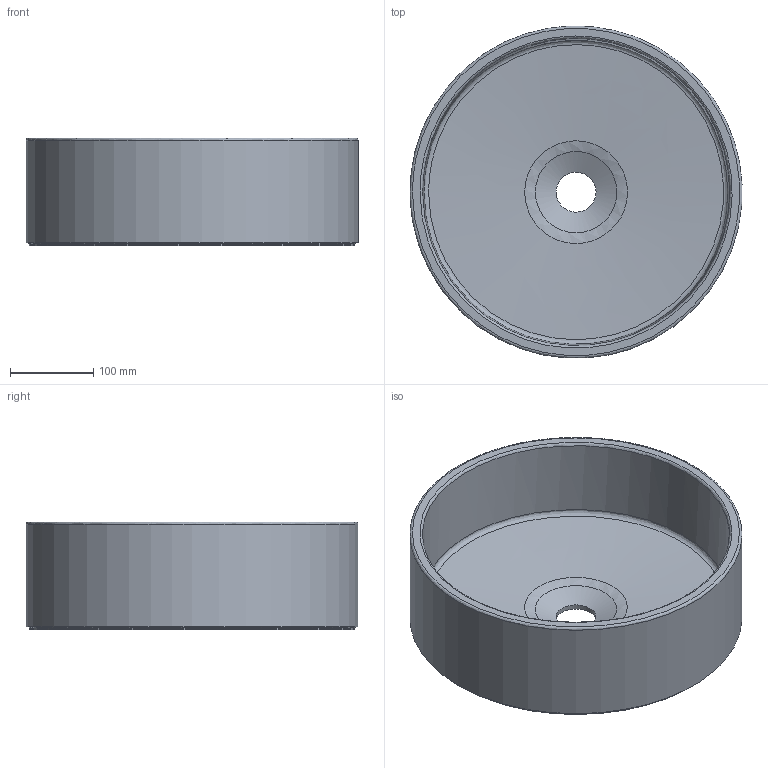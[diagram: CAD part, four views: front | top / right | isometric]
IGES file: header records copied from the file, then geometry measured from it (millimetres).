
Global section: file name: C:\Users\User\Desktop\Lavabos 3D\08050TJ Cemento Basic Redondo\08050TJ Cemento Basic Redondo.igs; native system: Rhinoceros ( Feb 26 2015 ); preprocessor: Trout Lake IGES 012 Feb 26 2015; date: 191022.050730; units: millimetre
Bounding box: 399.8 x 399.55 x 130 mm (x, y, z)
Surface area: 532314.6 mm2 (no closed solid volume)
Topology: 0 solids, 0 shells, 20 faces, 60 edges, 40 vertices
Faces by surface type: bspline 20
